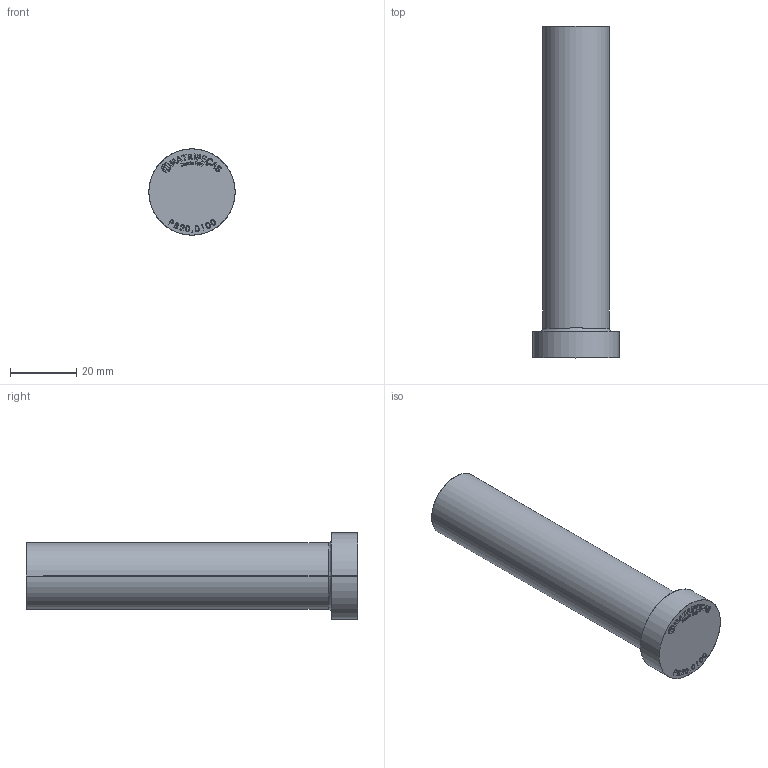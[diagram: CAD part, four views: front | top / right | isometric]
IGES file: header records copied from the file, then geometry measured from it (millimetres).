
Start section: SolidWorks IGES file using analytic representation for surfaces
Global section: file name: C:\Users\User\Downloads\Matripeça 31-08 tar\PB - PINO EXTRATOR TIPO _B_ (CATÁLOGO)\PB20,0\PB20,0100.IGS; native system: SolidWorks 2024; preprocessor: SolidWorks 2024; author: User; date: 260901.155336; units: millimetre
Bounding box: 26 x 100 x 26 mm (x, y, z)
Surface area: 7489.9 mm2 (no closed solid volume)
Topology: 0 solids, 0 shells, 394 faces, 4393 edges, 4393 vertices
Faces by surface type: bspline 380, revolution 14
